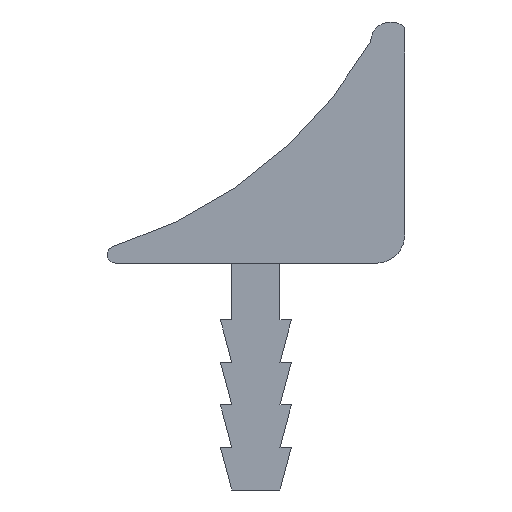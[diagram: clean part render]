
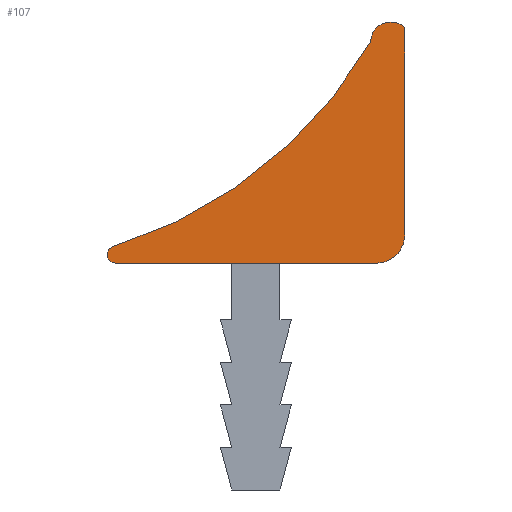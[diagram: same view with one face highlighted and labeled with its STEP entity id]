
A CAD part, left-side view. The second image highlights one B-rep face of the part: STEP entity #107.
In plain terms, the highlighted planar face has unit normal (-1, 0, 0).
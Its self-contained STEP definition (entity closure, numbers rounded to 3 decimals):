
#107 = ADVANCED_FACE( '', ( #210 ), #211, .F. );
#210 = FACE_OUTER_BOUND( '', #305, .T. );
#211 = PLANE( '', #306 );
#305 = EDGE_LOOP( '', ( #566, #567, #568, #569, #570, #571 ) );
#306 = AXIS2_PLACEMENT_3D( '', #572, #573, #574 );
#566 = ORIENTED_EDGE( '', *, *, #684, .F. );
#567 = ORIENTED_EDGE( '', *, *, #631, .F. );
#568 = ORIENTED_EDGE( '', *, *, #655, .F. );
#569 = ORIENTED_EDGE( '', *, *, #623, .F. );
#570 = ORIENTED_EDGE( '', *, *, #686, .F. );
#571 = ORIENTED_EDGE( '', *, *, #675, .T. );
#572 = CARTESIAN_POINT( '', ( -30., 8.923, 23.868 ) );
#573 = DIRECTION( '', ( 1., 0., 0. ) );
#574 = DIRECTION( '', ( 0., 0., -1. ) );
#623 = EDGE_CURVE( '', #761, #762, #763, .T. );
#631 = EDGE_CURVE( '', #772, #774, #775, .T. );
#655 = EDGE_CURVE( '', #762, #772, #812, .T. );
#675 = EDGE_CURVE( '', #832, #833, #834, .T. );
#684 = EDGE_CURVE( '', #774, #833, #843, .T. );
#686 = EDGE_CURVE( '', #832, #761, #845, .T. );
#761 = VERTEX_POINT( '', #950 );
#762 = VERTEX_POINT( '', #951 );
#763 = LINE( '', #952, #953 );
#772 = VERTEX_POINT( '', #967 );
#774 = VERTEX_POINT( '', #970 );
#775 = LINE( '', #971, #972 );
#812 = CIRCLE( '', #1028, 1. );
#832 = VERTEX_POINT( '', #1057 );
#833 = VERTEX_POINT( '', #1058 );
#834 = CIRCLE( '', #1059, 16. );
#843 = CIRCLE( '', #1072, 0.3 );
#845 = CIRCLE( '', #1074, 0.7 );
#950 = CARTESIAN_POINT( '', ( -30., -6.1, 16.3 ) );
#951 = CARTESIAN_POINT( '', ( -30., -6.1, 9. ) );
#952 = CARTESIAN_POINT( '', ( -30., -6.1, 16.3 ) );
#953 = VECTOR( '', #1120, 1000. );
#967 = CARTESIAN_POINT( '', ( -30., -5.1, 8. ) );
#970 = CARTESIAN_POINT( '', ( -30., 4.1, 8. ) );
#971 = CARTESIAN_POINT( '', ( -30., -5.1, 8. ) );
#972 = VECTOR( '', #1127, 1000. );
#1028 = AXIS2_PLACEMENT_3D( '', #1147, #1148, #1149 );
#1057 = CARTESIAN_POINT( '', ( -30., -4.9, 15.81 ) );
#1058 = CARTESIAN_POINT( '', ( -30., 4.162, 8.593 ) );
#1059 = AXIS2_PLACEMENT_3D( '', #1159, #1160, #1161 );
#1072 = AXIS2_PLACEMENT_3D( '', #1166, #1167, #1168 );
#1074 = AXIS2_PLACEMENT_3D( '', #1169, #1170, #1171 );
#1120 = DIRECTION( '', ( 0., 0., -1. ) );
#1127 = DIRECTION( '', ( 0., 1., 0. ) );
#1147 = CARTESIAN_POINT( '', ( -30., -5.1, 9. ) );
#1148 = DIRECTION( '', ( 1., 0., 0. ) );
#1149 = DIRECTION( '', ( 0., 0., -1. ) );
#1159 = CARTESIAN_POINT( '', ( -30., 8.923, 23.868 ) );
#1160 = DIRECTION( '', ( 1., 0., 0. ) );
#1161 = DIRECTION( '', ( 0., 0., -1. ) );
#1166 = CARTESIAN_POINT( '', ( -30., 4.098, 8.3 ) );
#1167 = DIRECTION( '', ( 1., 0., 0. ) );
#1168 = DIRECTION( '', ( 0., 0., -1. ) );
#1169 = CARTESIAN_POINT( '', ( -30., -5.6, 15.81 ) );
#1170 = DIRECTION( '', ( 1., 0., 0. ) );
#1171 = DIRECTION( '', ( 0., 0., -1. ) );
